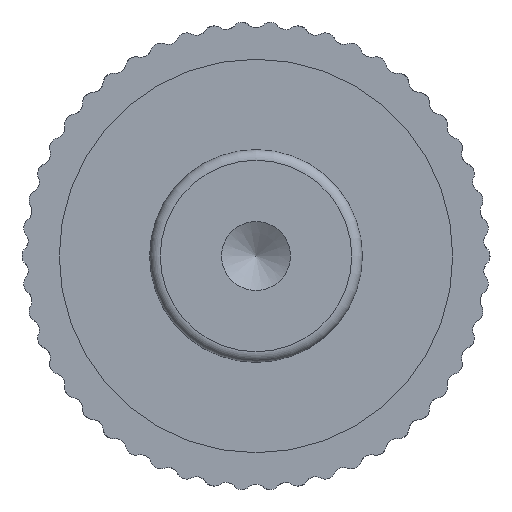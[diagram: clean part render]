
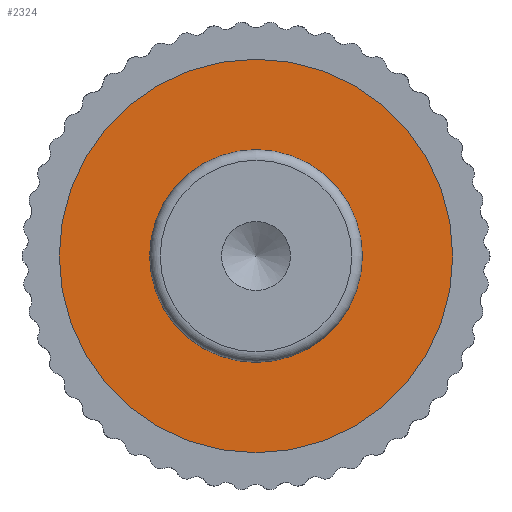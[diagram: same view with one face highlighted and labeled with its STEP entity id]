
A CAD part, front view. The second image highlights one B-rep face of the part: STEP entity #2324.
In plain terms, the highlighted planar face has unit normal (0, -1, 0).
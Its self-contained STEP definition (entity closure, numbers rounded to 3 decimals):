
#369=PLANE('',#2556);
#386=FACE_BOUND('',#733,.T.);
#604=FACE_OUTER_BOUND('',#732,.T.);
#732=EDGE_LOOP('',(#2103));
#733=EDGE_LOOP('',(#2104));
#741=CIRCLE('',#2338,5.);
#850=CIRCLE('',#2555,9.25);
#855=VERTEX_POINT('',#3135);
#1114=VERTEX_POINT('',#5211);
#1119=EDGE_CURVE('',#855,#855,#741,.T.);
#1478=EDGE_CURVE('',#1114,#1114,#850,.T.);
#2103=ORIENTED_EDGE('',*,*,#1478,.F.);
#2104=ORIENTED_EDGE('',*,*,#1119,.T.);
#2324=ADVANCED_FACE('',(#604,#386),#369,.F.);
#2338=AXIS2_PLACEMENT_3D('',#3136,#2579,#2580);
#2555=AXIS2_PLACEMENT_3D('',#5212,#3113,#3114);
#2556=AXIS2_PLACEMENT_3D('',#5213,#3115,#3116);
#2579=DIRECTION('center_axis',(0.,1.,0.));
#2580=DIRECTION('ref_axis',(1.,0.,0.));
#3113=DIRECTION('center_axis',(0.,1.,0.));
#3114=DIRECTION('ref_axis',(1.,0.,0.));
#3115=DIRECTION('center_axis',(0.,1.,0.));
#3116=DIRECTION('ref_axis',(0.,0.,1.));
#3135=CARTESIAN_POINT('',(-5.,10.,0.));
#3136=CARTESIAN_POINT('Origin',(0.,10.,0.));
#5211=CARTESIAN_POINT('',(-9.25,10.,0.));
#5212=CARTESIAN_POINT('Origin',(0.,10.,0.));
#5213=CARTESIAN_POINT('Origin',(-5.,10.,0.));
